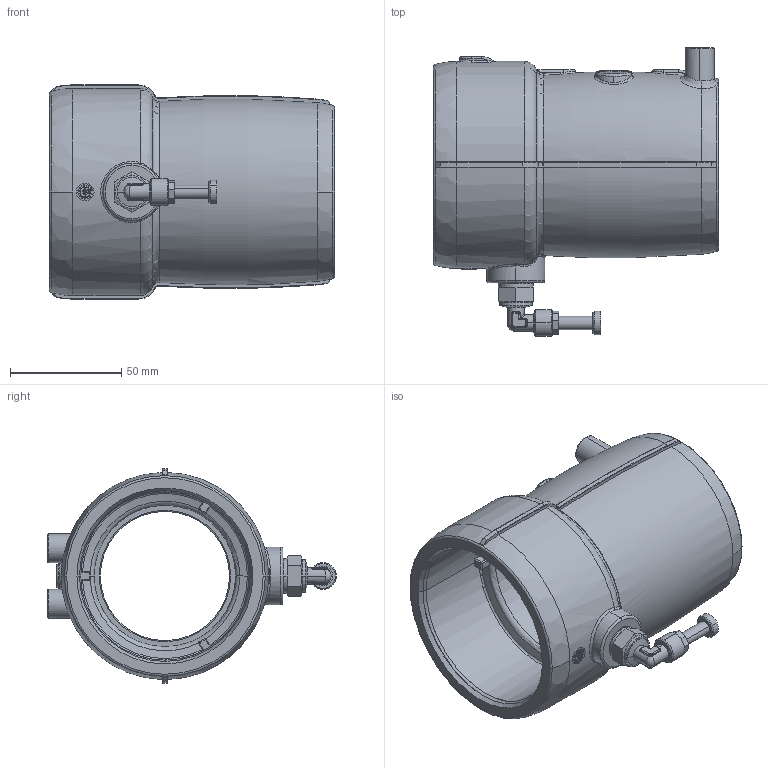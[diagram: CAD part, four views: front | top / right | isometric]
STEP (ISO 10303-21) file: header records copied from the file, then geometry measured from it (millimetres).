
FILE_DESCRIPTION (( 'STEP AP203' ), '1' );
FILE_NAME ('KP_T75-63SC2A-L.STEP', '2012-01-18T10:54:16', ( '' ), ( '' ), 'SwSTEP 2.0', 'SolidWorks 2012', '' );
FILE_SCHEMA (( 'CONFIG_CONTROL_DESIGN' ));
Length unit declared in the file: millimetre
Products named in the file (1): KP_T75-63SC2A-L
Bounding box: 128 x 129.63 x 96.2 mm (x, y, z)
Volume: 301832.6 mm3; surface area: 165832.5 mm2
Topology: 8 solids, 8 shells, 2186 faces, 5427 edges, 3299 vertices
Faces by surface type: cylinder 695, plane 683, bspline 394, torus 148, cone 140, sphere 126
Entity records: 97921 total; most frequent: CARTESIAN_POINT 50912, ORIENTED_EDGE 10698, DIRECTION 8719, EDGE_CURVE 5349, AXIS2_PLACEMENT_3D 3357, VERTEX_POINT 3297, EDGE_LOOP 2320, FACE_OUTER_BOUND 2186
